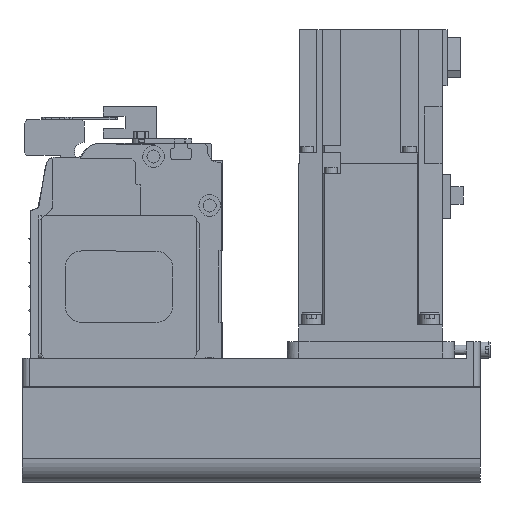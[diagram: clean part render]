
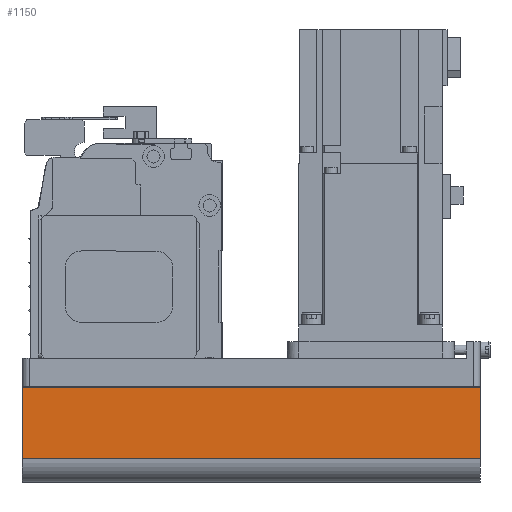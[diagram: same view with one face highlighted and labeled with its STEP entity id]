
A CAD part, left-side view. The second image highlights one B-rep face of the part: STEP entity #1150.
In plain terms, the highlighted planar face has unit normal (-1, 0, 0) as drawn and (0, 1, 0) by its records, which use the part's own axes.
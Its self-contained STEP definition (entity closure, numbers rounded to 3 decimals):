
#1150 = ADVANCED_FACE( '', ( #2857 ), #2858, .T. );
#2857 = FACE_OUTER_BOUND( '', #5321, .T. );
#2858 = PLANE( '', #5322 );
#5321 = EDGE_LOOP( '', ( #8381, #8382, #8383, #8384 ) );
#5322 = AXIS2_PLACEMENT_3D( '', #8385, #8386, #8387 );
#8381 = ORIENTED_EDGE( '', *, *, #14478, .F. );
#8382 = ORIENTED_EDGE( '', *, *, #14112, .F. );
#8383 = ORIENTED_EDGE( '', *, *, #14479, .T. );
#8384 = ORIENTED_EDGE( '', *, *, #14480, .T. );
#8385 = CARTESIAN_POINT( '', ( -192., 40., -42. ) );
#8386 = DIRECTION( '', ( 0., 1., 0. ) );
#8387 = DIRECTION( '', ( 0., 0., 1. ) );
#14112 = EDGE_CURVE( '', #16810, #16806, #16812, .T. );
#14478 = EDGE_CURVE( '', #16806, #17440, #17441, .T. );
#14479 = EDGE_CURVE( '', #16810, #17442, #17443, .T. );
#14480 = EDGE_CURVE( '', #17442, #17440, #17444, .T. );
#16806 = VERTEX_POINT( '', #20652 );
#16810 = VERTEX_POINT( '', #20657 );
#16812 = LINE( '', #20659, #20660 );
#17440 = VERTEX_POINT( '', #21493 );
#17441 = LINE( '', #21494, #21495 );
#17442 = VERTEX_POINT( '', #21496 );
#17443 = LINE( '', #21497, #21498 );
#17444 = LINE( '', #21499, #21500 );
#20652 = CARTESIAN_POINT( '', ( 0., 40., -42. ) );
#20657 = CARTESIAN_POINT( '', ( -192., 40., -42. ) );
#20659 = CARTESIAN_POINT( '', ( -192., 40., -42. ) );
#20660 = VECTOR( '', #25379, 1000. );
#21493 = CARTESIAN_POINT( '', ( 0., 40., -12.1 ) );
#21494 = CARTESIAN_POINT( '', ( 0., 40., -42. ) );
#21495 = VECTOR( '', #25840, 1000. );
#21496 = CARTESIAN_POINT( '', ( -192., 40., -12.1 ) );
#21497 = CARTESIAN_POINT( '', ( -192., 40., -42. ) );
#21498 = VECTOR( '', #25841, 1000. );
#21499 = CARTESIAN_POINT( '', ( -192., 40., -12.1 ) );
#21500 = VECTOR( '', #25842, 1000. );
#25379 = DIRECTION( '', ( 1., 0., 0. ) );
#25840 = DIRECTION( '', ( 0., 0., 1. ) );
#25841 = DIRECTION( '', ( 0., 0., 1. ) );
#25842 = DIRECTION( '', ( 1., 0., 0. ) );
